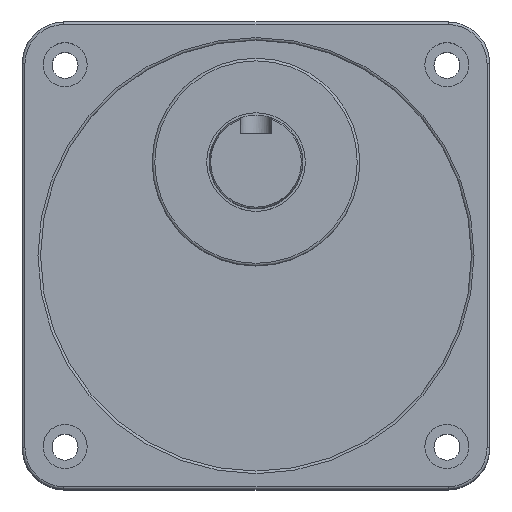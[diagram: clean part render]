
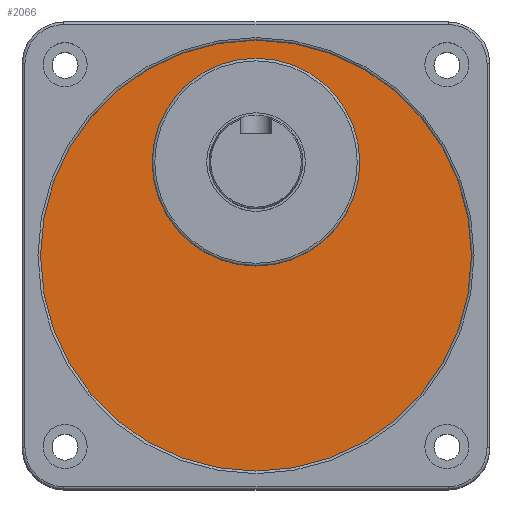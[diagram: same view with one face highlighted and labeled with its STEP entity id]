
A CAD part, top view. The second image highlights one B-rep face of the part: STEP entity #2066.
In plain terms, the highlighted planar face has unit normal (0, 0, 1).
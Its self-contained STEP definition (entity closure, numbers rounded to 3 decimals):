
#2000=CARTESIAN_POINT('',(20.0,18.,64.5));
#2001=VERTEX_POINT('',#2000);
#2002=CARTESIAN_POINT('',(0.0,18.0,64.5));
#2003=DIRECTION('',(0.0,0.0,1.0));
#2004=DIRECTION('',(-1.0,0.0,0.0));
#2005=AXIS2_PLACEMENT_3D('',#2002,#2003,#2004);
#2006=CIRCLE('',#2005,20.0);
#2007=EDGE_CURVE('',#2001,#2001,#2006,.T.);
#2040=CARTESIAN_POINT('',(41.5,0.,64.5));
#2041=VERTEX_POINT('',#2040);
#2042=CARTESIAN_POINT('',(0.0,0.0,64.5));
#2043=DIRECTION('',(0.0,0.0,1.0));
#2044=DIRECTION('',(-1.0,0.0,0.0));
#2045=AXIS2_PLACEMENT_3D('',#2042,#2043,#2044);
#2046=CIRCLE('',#2045,41.5);
#2047=EDGE_CURVE('',#2041,#2041,#2046,.T.);
#2055=CARTESIAN_POINT('',(0.0,0.0,64.5));
#2056=DIRECTION('',(0.0,0.0,-1.0));
#2057=DIRECTION('',(-1.0,0.0,0.0));
#2058=AXIS2_PLACEMENT_3D('',#2055,#2056,#2057);
#2059=PLANE('',#2058);
#2060=ORIENTED_EDGE('',*,*,#2047,.T.);
#2061=EDGE_LOOP('',(#2060));
#2062=FACE_OUTER_BOUND('',#2061,.T.);
#2063=ORIENTED_EDGE('',*,*,#2007,.F.);
#2064=EDGE_LOOP('',(#2063));
#2065=FACE_BOUND('',#2064,.T.);
#2066=ADVANCED_FACE('',(#2062,#2065),#2059,.F.);
